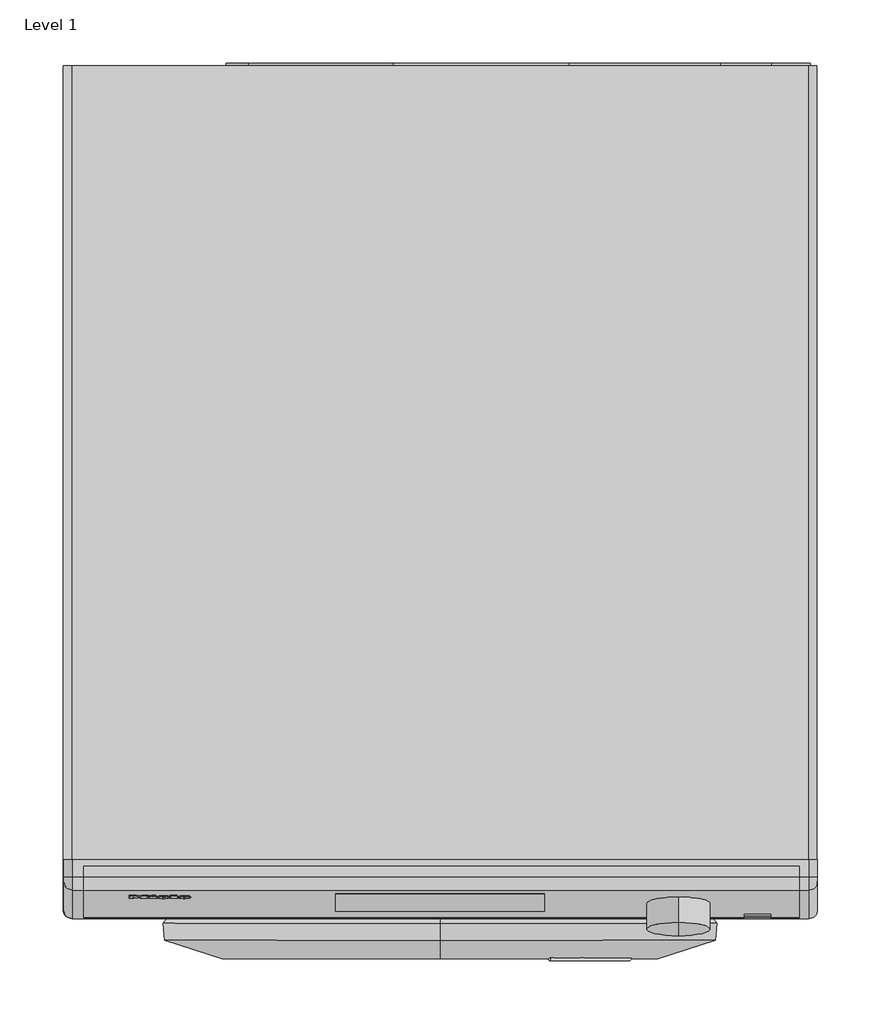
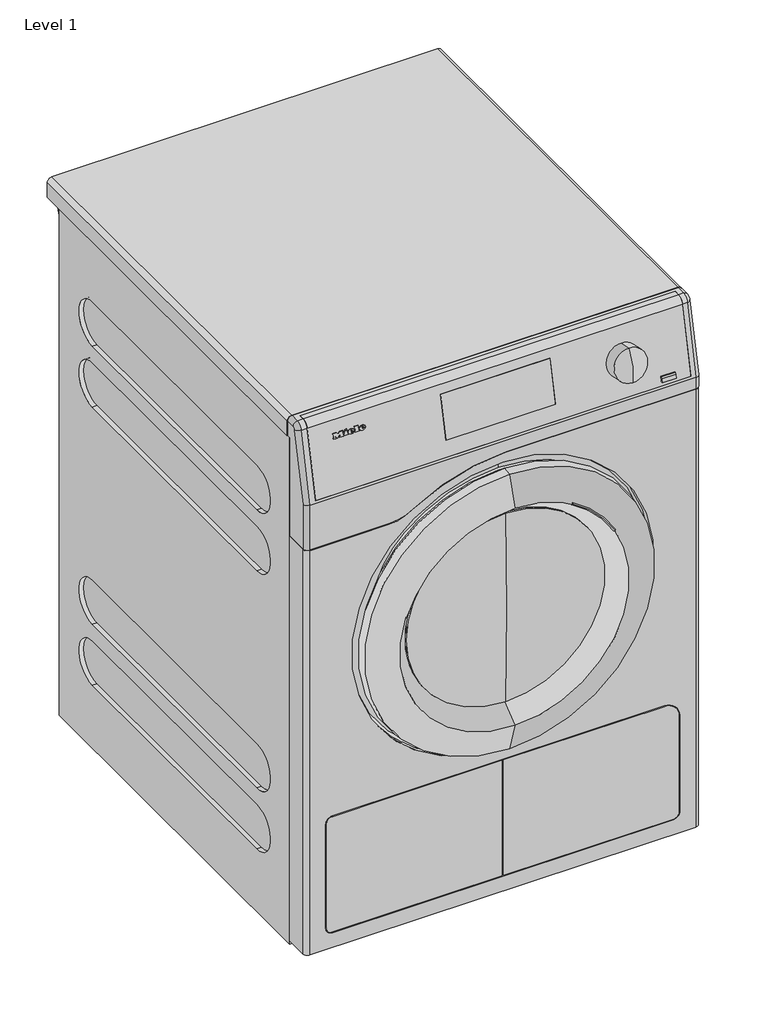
# One storey: 1 proxy.
"""IFC4 building model written with IfcOpenShell, lengths in millimetres."""

from ifc_helpers import new_model, si_unit, origin, place, context, project, spatial, transform, mapped, element, save
from components import specialty_equipment_d1bbccee, specialty_equipment_6a1f8d6e

model = new_model("IFC4")

# Units and contexts
model_context = context("Model", 3, world=origin())
ifc_project = project(units=[si_unit("LENGTHUNIT", "METRE", prefix="MILLI")], contexts=[model_context])

# Site, building, storey
site = spatial("IfcSite", under=ifc_project)
building = spatial("IfcBuilding", under=site)
storey = spatial("IfcBuildingStorey", under=building, Name="Level 1", Elevation=0.0)

# Proxy
placement = place(None, origin())
specialty_equipment_shape = specialty_equipment_d1bbccee(model_context)
specialty_equipment_2_shape = specialty_equipment_6a1f8d6e(model_context)
element("IfcBuildingElementProxy", 1, Name="11137100_RU_PDR507EL_SST : 52507452_RU_11137100_PDR507EL_SST", ObjectType="11137100_RU_PDR507EL_SST : 52507452_RU_11137100_PDR507EL_SST", at=placement, inside=storey, context=model_context, shape_type="MappedRepresentation", body=[
    mapped(specialty_equipment_shape, transform((0.0, 0.0, 0.0), x_axis=(1.0, 0.0, 0.0), y_axis=(0.0, 1.0, 0.0), z_axis=(0.0, 0.0, 1.0))),
    mapped(specialty_equipment_2_shape, transform((0.0, 0.0, 0.0), x_axis=(1.0, 0.0, 0.0), y_axis=(0.0, 1.0, 0.0), z_axis=(0.0, 0.0, 1.0))),
])

save(model, "model.ifc")
